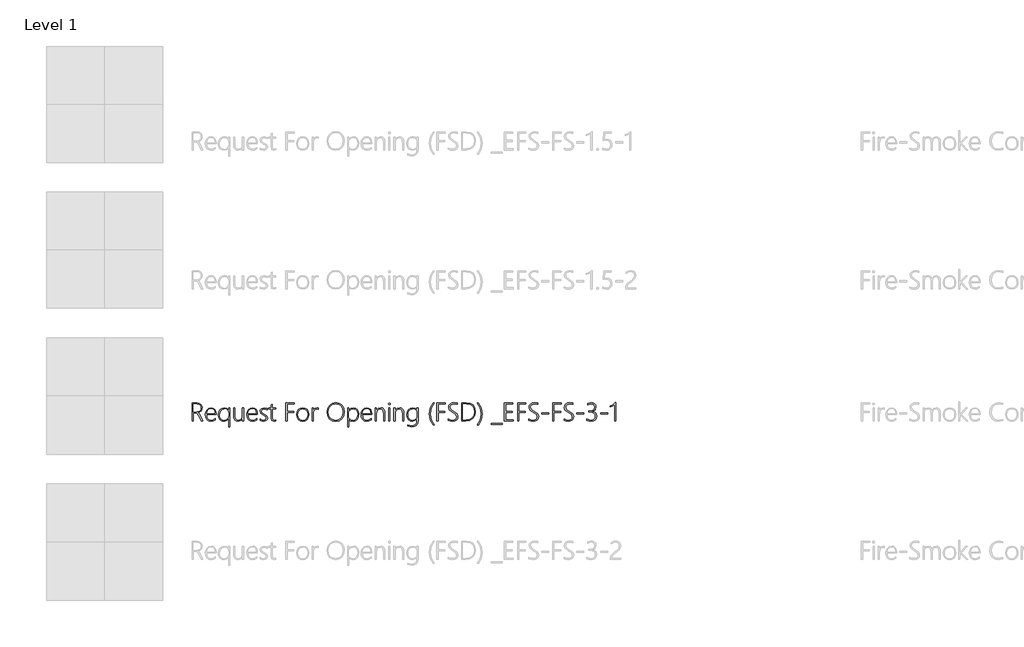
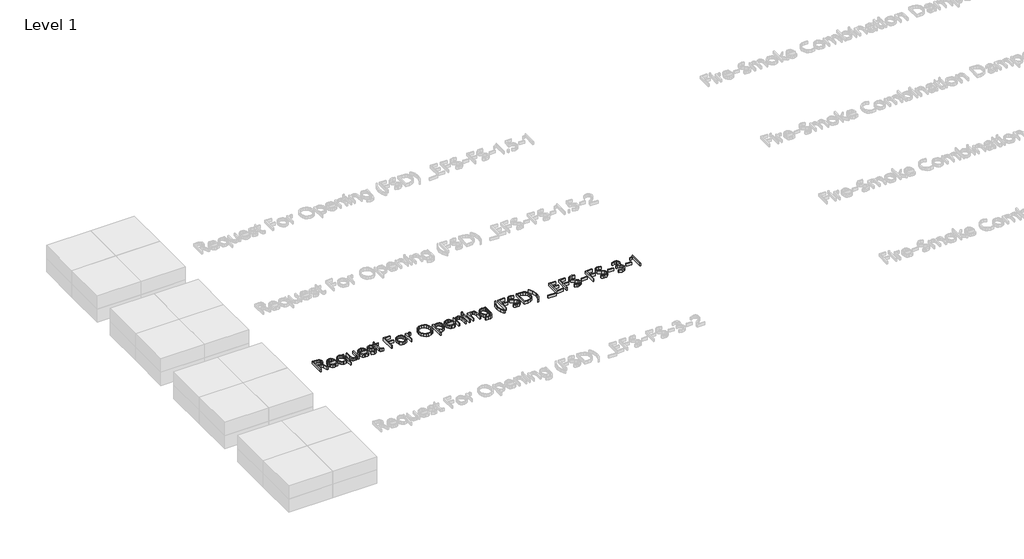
# One storey, part 3 of 13: 1 proxy.
"""IFC4 building model written with IfcOpenShell, lengths in millimetres."""

from ifc_helpers import new_model, si_unit, origin, origin_with_axes, place, context, project, spatial, polyline, outline, extrude, element, save

model = new_model("IFC4")

# Units and contexts
model_context = context("Model", 3, world=origin())
ifc_project = project(units=[si_unit("LENGTHUNIT", "METRE", prefix="MILLI")], contexts=[model_context])

# Site, building, storey
site = spatial("IfcSite", under=ifc_project)
building = spatial("IfcBuilding", under=site)
storey = spatial("IfcBuildingStorey", under=building, Name="Level 1", Elevation=0.0)

# Proxy
placement = place(None, origin())
element("IfcBuildingElementProxy", 1, Name="24\" Arial", ObjectType="24\" Arial", at=placement, inside=storey, context=model_context, shape_type="SweptSolid", body=[
    extrude(outline(polyline([(-15088.6743908, 4724.9179959), (-15102.0044774, 4754.1965789), (-15110.2316402, 4766.3811112), (-15120.5713837, 4769.4904729), (-15132.9790759, 4769.4904729), (-15132.9790759, 4724.9179959), (-15139.8821565, 4724.9179959), (-15139.8821565, 4824.9233999), (-15112.121061, 4824.9233999), (-15100.2973039, 4823.1344011), (-15091.307678, 4817.7674047), (-15085.6282578, 4809.4770133), (-15083.7351177, 4798.9178292), (-15085.2860792, 4788.9834929), (-15089.9389638, 4780.8418747), (-15097.3813475, 4774.8872239), (-15107.3008065, 4771.5137896), (-15095.7262447, 4756.7852341), (-15080.8786706, 4724.9179959), (-15088.6743908, 4724.9179959)]), holes=[polyline([(-15132.9790759, 4818.5856578), (-15132.9790759, 4775.7687056), (-15115.7511292, 4775.7687056), (-15105.4783337, 4777.2675965), (-15097.5710334, 4781.7642691), (-15092.527619, 4788.8719129), (-15090.8464808, 4798.2037174), (-15092.3639684, 4806.7209881), (-15096.916431, 4813.1703102), (-15104.2955861, 4817.2318209), (-15114.293151, 4818.5856578), (-15132.9790759, 4818.5856578)])]), origin_with_axes(), (0.0, 0.0, 1.0), 20.0),
    extrude(outline(polyline([(-15059.7528637, 4760.355793), (-15058.0531289, 4747.233989), (-15052.9539245, 4737.3256881), (-15044.8941316, 4731.099526), (-15034.3126315, 4729.0241386), (-15022.4405231, 4731.2408606), (-15010.8659614, 4737.8910266), (-15010.8659614, 4731.0474553), (-15022.6041738, 4725.1337171), (-15035.6218364, 4723.1624711), (-15048.1039153, 4725.6395463), (-15057.9378296, 4733.070772), (-15064.3202036, 4745.017267), (-15066.4476617, 4761.0401501), (-15064.223501, 4775.4339657), (-15057.551019, 4787.3730221), (-15047.3228555, 4795.4067796), (-15034.4316501, 4798.0846988), (-15022.6748411, 4795.7452388), (-15014.0050777, 4788.726859), (-15008.6603974, 4777.6692844), (-15006.8788373, 4763.2122401), (-15006.8788373, 4760.355793), (-15059.7528637, 4760.355793)]), holes=[polyline([(-15013.5736352, 4766.2174605), (-15015.284528, 4777.1671745), (-15019.5245667, 4785.37946), (-15026.07803, 4790.5121384), (-15034.7291967, 4792.2230312), (-15043.8973506, 4790.5381738), (-15051.347173, 4785.4836013), (-15056.676976, 4777.2973511), (-15059.4850718, 4766.2174605), (-15013.5736352, 4766.2174605)])]), origin_with_axes(), (0.0, 0.0, 1.0), 20.0),
    extrude(outline(polyline([(-14938.2348423, 4692.0688539), (-14938.2348423, 4738.0397998), (-14948.946519, 4726.8818033), (-14964.3891863, 4723.1624711), (-14976.4695772, 4725.6209497), (-14985.9315583, 4732.9963854), (-14992.0461405, 4744.5449119), (-14994.0843345, 4759.5226626), (-14991.7671906, 4775.4451237), (-14984.8157587, 4787.685446), (-14974.2863292, 4795.4848856), (-14961.2351926, 4798.0846988), (-14947.5629274, 4794.7521771), (-14938.5026342, 4784.7546122), (-14938.2348423, 4796.329174), (-14931.8078363, 4796.329174), (-14931.8078363, 4692.0688539), (-14938.2348423, 4692.0688539)]), holes=[polyline([(-14938.2348423, 4767.7349481), (-14939.7858038, 4777.4721598), (-14944.4386884, 4785.3199507), (-14951.8438788, 4790.4972611), (-14961.6517578, 4792.2230312), (-14971.8055347, 4790.0881346), (-14980.0698908, 4783.6834445), (-14985.5596251, 4773.4404037), (-14987.3895366, 4759.7904545), (-14985.7604691, 4746.9624778), (-14980.8732666, 4737.2215468), (-14973.3899702, 4731.0734907), (-14963.9726211, 4729.0241386), (-14952.9448011, 4730.943314), (-14944.8552536, 4736.7008403), (-14939.8899451, 4745.2329883), (-14938.2348423, 4755.4760292), (-14938.2348423, 4767.7349481)])]), origin_with_axes(), (0.0, 0.0, 1.0), 20.0),
    extrude(outline(polyline([(-14861.7951271, 4724.9179959), (-14861.7951271, 4737.8910266), (-14871.5620934, 4726.8446099), (-14885.0930239, 4723.1624711), (-14896.1710549, 4725.1560331), (-14904.0839341, 4731.1367193), (-14908.8316616, 4741.1045296), (-14910.4142375, 4755.059464), (-14910.4142375, 4796.329174), (-14903.9277221, 4796.329174), (-14903.9277221, 4756.6364608), (-14902.7338165, 4744.1283466), (-14899.1520996, 4735.5850406), (-14893.0040435, 4730.6643641), (-14884.1111202, 4729.0241386), (-14875.0917397, 4730.8540501), (-14867.9692185, 4736.3437844), (-14863.3386499, 4744.8908097), (-14861.7951271, 4755.8925944), (-14861.7951271, 4796.329174), (-14855.3978757, 4796.329174), (-14855.3978757, 4724.9179959), (-14861.7951271, 4724.9179959)])), origin_with_axes(), (0.0, 0.0, 1.0), 20.0),
    extrude(outline(polyline([(-14831.2370938, 4760.355793), (-14829.537359, 4747.233989), (-14824.4381545, 4737.3256881), (-14816.3783617, 4731.099526), (-14805.7968616, 4729.0241386), (-14793.9247532, 4731.2408606), (-14782.3501914, 4737.8910266), (-14782.3501914, 4731.0474553), (-14794.0884038, 4725.1337171), (-14807.1060665, 4723.1624711), (-14819.5881453, 4725.6395463), (-14829.4220597, 4733.070772), (-14835.8044337, 4745.017267), (-14837.9318917, 4761.0401501), (-14835.7077311, 4775.4339657), (-14829.0352491, 4787.3730221), (-14818.8070856, 4795.4067796), (-14805.9158802, 4798.0846988), (-14794.1590711, 4795.7452388), (-14785.4893078, 4788.726859), (-14780.1446274, 4777.6692844), (-14778.3630673, 4763.2122401), (-14778.3630673, 4760.355793), (-14831.2370938, 4760.355793)]), holes=[polyline([(-14785.0578653, 4766.2174605), (-14786.7687581, 4777.1671745), (-14791.0087968, 4785.37946), (-14797.5622601, 4790.5121384), (-14806.2134268, 4792.2230312), (-14815.3815806, 4790.5381738), (-14822.831403, 4785.4836013), (-14828.161206, 4777.2973511), (-14830.9693018, 4766.2174605), (-14785.0578653, 4766.2174605)])]), origin_with_axes(), (0.0, 0.0, 1.0), 20.0),
    extrude(outline(polyline([(-14764.1105863, 4728.0422349), (-14764.1105863, 4735.8082005), (-14755.318085, 4730.8391727), (-14746.4065651, 4729.0241386), (-14733.798029, 4732.4608016), (-14729.5951836, 4742.7707904), (-14733.2847611, 4750.8491799), (-14745.2758881, 4757.7671378), (-14759.6771424, 4767.005959), (-14763.8130398, 4778.6251527), (-14762.1504983, 4786.5064177), (-14757.1628738, 4792.7139831), (-14740.7531802, 4798.0846988), (-14724.9832117, 4794.3058573), (-14724.9832117, 4787.0457208), (-14741.4375373, 4792.2230312), (-14752.8038165, 4788.5632084), (-14757.1182418, 4779.0417179), (-14754.410568, 4770.7699231), (-14742.419441, 4763.4800321), (-14727.080915, 4754.1668242), (-14722.9003856, 4742.7707904), (-14724.4959792, 4735.0011054), (-14729.2827597, 4728.7117147), (-14736.8739167, 4724.549782), (-14746.8826396, 4723.1624711), (-14764.1105863, 4728.0422349)])), origin_with_axes(), (0.0, 0.0, 1.0), 20.0),
    extrude(outline(polyline([(-14676.9294397, 4725.8998996), (-14686.3616662, 4723.519527), (-14698.2337745, 4728.2653948), (-14702.191144, 4742.5029985), (-14702.191144, 4790.4675064), (-14715.0154014, 4790.4675064), (-14715.0154014, 4796.329174), (-14702.191144, 4796.329174), (-14702.191144, 4814.8663256), (-14698.977641, 4815.9970026), (-14695.764138, 4817.0384156), (-14695.764138, 4796.329174), (-14676.9294397, 4796.329174), (-14676.9294397, 4790.4675064), (-14695.764138, 4790.4675064), (-14695.764138, 4743.3361289), (-14693.4283973, 4732.6244522), (-14685.5285358, 4729.3216852), (-14676.9294397, 4731.8805857), (-14676.9294397, 4725.8998996)])), origin_with_axes(), (0.0, 0.0, 1.0), 20.0),
    extrude(outline(polyline([(-14615.0099974, 4818.5856578), (-14615.0099974, 4777.7920223), (-14578.0547127, 4777.7920223), (-14578.0547127, 4771.5137896), (-14615.0099974, 4771.5137896), (-14615.0099974, 4724.9179959), (-14621.9130779, 4724.9179959), (-14621.9130779, 4824.9233999), (-14575.1685109, 4824.9233999), (-14575.1685109, 4818.5856578), (-14615.0099974, 4818.5856578)])), origin_with_axes(), (0.0, 0.0, 1.0), 20.0),
    extrude(outline(polyline([(-14527.9776241, 4723.1624711), (-14541.9697518, 4725.736249), (-14552.7037445, 4733.4575826), (-14559.5324384, 4745.2924976), (-14561.8086697, 4760.2070197), (-14559.4282971, 4776.0625329), (-14552.2871793, 4788.0425019), (-14541.2630787, 4795.5741495), (-14527.2337576, 4798.0846988), (-14513.5503345, 4795.5890269), (-14503.087853, 4788.1020112), (-14496.4488451, 4776.2038675), (-14494.2358424, 4760.4748116), (-14496.4934771, 4745.3966389), (-14503.266381, 4733.4873372), (-14513.959461, 4725.7436876), (-14527.9776241, 4723.1624711)]), holes=[polyline([(-14527.5015495, 4792.2230312), (-14538.8380741, 4790.0955732), (-14547.615698, 4783.7131992), (-14553.2393283, 4773.544545), (-14555.1138717, 4760.0582464), (-14553.2839603, 4747.4199556), (-14547.794226, 4737.5339707), (-14539.128182, 4731.1515966), (-14527.7693415, 4729.0241386), (-14516.3621496, 4731.1181226), (-14507.9081076, 4737.4000747), (-14502.6750072, 4747.3939203), (-14500.9306404, 4760.6235849), (-14502.6638492, 4774.1136028), (-14507.8634756, 4784.0553777), (-14516.2394117, 4790.1811179), (-14527.5015495, 4792.2230312)])]), origin_with_axes(), (0.0, 0.0, 1.0), 20.0),
    extrude(outline(polyline([(-14442.9983221, 4789.634376), (-14450.5262505, 4791.9254847), (-14458.2736194, 4789.745956), (-14464.6745901, 4783.20737), (-14468.9704188, 4772.6593439), (-14470.4023617, 4758.4514949), (-14470.4023617, 4724.9179959), (-14476.6805945, 4724.9179959), (-14476.6805945, 4796.329174), (-14470.4023617, 4796.329174), (-14470.4023617, 4780.4996962), (-14462.3686042, 4793.1900576), (-14450.1096853, 4797.7276429), (-14442.9983221, 4796.4779473), (-14442.9983221, 4789.634376)])), origin_with_axes(), (0.0, 0.0, 1.0), 20.0),
    extrude(outline(polyline([(-14346.5337224, 4723.1624711), (-14365.5729839, 4726.6846787), (-14380.320136, 4737.2513014), (-14389.7709591, 4753.4489931), (-14392.9212335, 4773.8644075), (-14389.6854145, 4795.4067796), (-14379.9779574, 4812.1884065), (-14364.6766248, 4822.9893471), (-14344.6591789, 4826.5896607), (-14326.3563452, 4823.1306818), (-14311.9141783, 4812.7537449), (-14302.5303032, 4796.7606165), (-14299.4023448, 4776.4530627), (-14302.6084092, 4754.2821235), (-14312.2266022, 4737.4000747), (-14327.2155109, 4726.721872), (-14346.5337224, 4723.1624711)]), holes=[polyline([(-14345.8196106, 4820.311428), (-14361.712317, 4817.1574343), (-14374.5179778, 4807.6954532), (-14382.9645812, 4793.1231096), (-14385.7801157, 4774.6380286), (-14383.1133545, 4756.0934383), (-14375.1130709, 4741.759132), (-14362.6719047, 4732.5872589), (-14346.6824956, 4729.5299678), (-14330.0570807, 4732.5537849), (-14317.3146486, 4741.6252361), (-14309.2139431, 4756.1045963), (-14306.513708, 4775.3521404), (-14309.1544338, 4794.212874), (-14317.0766114, 4808.4244423), (-14329.5438129, 4817.3396815), (-14345.8196106, 4820.311428)])]), origin_with_axes(), (0.0, 0.0, 1.0), 20.0),
    extrude(outline(polyline([(-14273.843094, 4737.6232346), (-14274.1108859, 4692.0688539), (-14280.5378919, 4692.0688539), (-14280.5378919, 4796.329174), (-14274.1108859, 4796.329174), (-14274.1108859, 4781.6006185), (-14262.848748, 4793.7851508), (-14247.1234115, 4798.0846988), (-14235.0169852, 4795.7378002), (-14225.8934633, 4788.6971043), (-14220.1694111, 4777.632091), (-14218.2613937, 4763.2122401), (-14220.448361, 4746.9922324), (-14227.009263, 4734.2163264), (-14237.1630399, 4725.9259349), (-14250.1286319, 4723.1624711), (-14264.0761276, 4726.777662), (-14273.843094, 4737.6232346)]), holes=[polyline([(-14274.1108859, 4764.1941438), (-14274.1108859, 4755.1784826), (-14272.4185897, 4745.195795), (-14267.3417013, 4736.7305949), (-14259.512507, 4730.9507527), (-14249.5632934, 4729.0241386), (-14239.6438345, 4731.3710372), (-14231.7848855, 4738.4117331), (-14226.6633651, 4749.2684637), (-14224.9561916, 4763.0634668), (-14226.5257498, 4775.0769098), (-14231.2344244, 4784.338047), (-14238.5540701, 4790.2517852), (-14247.9565419, 4792.2230312), (-14259.0364325, 4790.1290472), (-14267.282192, 4783.8470951), (-14272.4037124, 4774.7458893), (-14274.1108859, 4764.1941438)])]), origin_with_axes(), (0.0, 0.0, 1.0), 20.0),
    extrude(outline(polyline([(-14199.0101303, 4760.355793), (-14197.3103954, 4747.233989), (-14192.211191, 4737.3256881), (-14184.1513981, 4731.099526), (-14173.5698981, 4729.0241386), (-14161.6977897, 4731.2408606), (-14150.1232279, 4737.8910266), (-14150.1232279, 4731.0474553), (-14161.8614403, 4725.1337171), (-14174.879103, 4723.1624711), (-14187.3611818, 4725.6395463), (-14197.1950961, 4733.070772), (-14203.5774702, 4745.017267), (-14205.7049282, 4761.0401501), (-14203.4807675, 4775.4339657), (-14196.8082856, 4787.3730221), (-14186.5801221, 4795.4067796), (-14173.6889167, 4798.0846988), (-14161.9321076, 4795.7452388), (-14153.2623443, 4788.726859), (-14147.9176639, 4777.6692844), (-14146.1361038, 4763.2122401), (-14146.1361038, 4760.355793), (-14199.0101303, 4760.355793)]), holes=[polyline([(-14152.8309017, 4766.2174605), (-14154.5417946, 4777.1671745), (-14158.7818333, 4785.37946), (-14165.3352966, 4790.5121384), (-14173.9864633, 4792.2230312), (-14183.1546171, 4790.5381738), (-14190.6044395, 4785.4836013), (-14195.9342425, 4777.2973511), (-14198.7423383, 4766.2174605), (-14152.8309017, 4766.2174605)])]), origin_with_axes(), (0.0, 0.0, 1.0), 20.0),
    extrude(outline(polyline([(-14079.6344442, 4724.9179959), (-14079.6344442, 4766.4852525), (-14084.2761708, 4785.7885865), (-14090.078329, 4790.6144201), (-14098.2013505, 4792.2230312), (-14107.6001029, 4790.3298912), (-14115.146628, 4784.6504709), (-14120.1119364, 4776.1815515), (-14121.7670393, 4765.919914), (-14121.7670393, 4724.9179959), (-14128.1940453, 4724.9179959), (-14128.1940453, 4796.329174), (-14121.7670393, 4796.329174), (-14121.7670393, 4783.3561433), (-14111.4793664, 4794.4025599), (-14097.0706735, 4798.0846988), (-14086.8573873, 4796.1580847), (-14079.3666523, 4790.3782425), (-14074.7695577, 4781.0204027), (-14073.2371928, 4768.3597959), (-14073.2371928, 4724.9179959), (-14079.6344442, 4724.9179959)])), origin_with_axes(), (0.0, 0.0, 1.0), 20.0),
    extrude(outline(polyline([(-14048.8681283, 4814.3307418), (-14052.5577058, 4815.8631067), (-14054.1644573, 4819.7758441), (-14052.5279512, 4823.4951763), (-14048.8681283, 4824.9233999), (-14045.0595321, 4823.524931), (-14043.4230259, 4819.7758441), (-14045.0297775, 4815.9374933), (-14048.8681283, 4814.3307418)])), origin_with_axes(), (0.0, 0.0, 1.0), 20.0),
    extrude(outline(polyline([(-14052.022122, 4724.9179959), (-14052.022122, 4796.329174), (-14045.595116, 4796.329174), (-14045.595116, 4724.9179959), (-14052.022122, 4724.9179959)])), origin_with_axes(), (0.0, 0.0, 1.0), 20.0),
    extrude(outline(polyline([(-13974.8980496, 4724.9179959), (-13974.8980496, 4766.4852525), (-13979.5397762, 4785.7885865), (-13985.3419344, 4790.6144201), (-13993.4649559, 4792.2230312), (-14002.8637084, 4790.3298912), (-14010.4102334, 4784.6504709), (-14015.3755419, 4776.1815515), (-14017.0306447, 4765.919914), (-14017.0306447, 4724.9179959), (-14023.4576507, 4724.9179959), (-14023.4576507, 4796.329174), (-14017.0306447, 4796.329174), (-14017.0306447, 4783.3561433), (-14006.7429719, 4794.4025599), (-13992.3342789, 4798.0846988), (-13982.1209927, 4796.1580847), (-13974.6302577, 4790.3782425), (-13970.0331631, 4781.0204027), (-13968.5007983, 4768.3597959), (-13968.5007983, 4724.9179959), (-13974.8980496, 4724.9179959)])), origin_with_axes(), (0.0, 0.0, 1.0), 20.0),
    extrude(outline(polyline([(-13890.1567849, 4730.2143249), (-13892.3549103, 4712.7706569), (-13898.9492862, 4700.7274593), (-13910.1779501, 4693.7202374), (-13926.2789392, 4691.3844968), (-13947.5535193, 4696.7998445), (-13947.5535193, 4703.4946424), (-13926.1301659, 4697.2461644), (-13913.2036269, 4699.1988138), (-13903.9703847, 4705.056762), (-13898.4304394, 4714.820009), (-13896.583791, 4728.4885548), (-13896.583791, 4737.7422533), (-13907.5111889, 4726.8074166), (-13922.5893617, 4723.1624711), (-13934.5581727, 4725.5540017), (-13944.1019791, 4732.7285935), (-13950.3504571, 4744.1729786), (-13952.4332832, 4759.3738893), (-13950.1830872, 4774.8872239), (-13943.4324993, 4787.2688808), (-13933.0072111, 4795.3807443), (-13919.7329145, 4798.0846988), (-13906.1275974, 4794.8191251), (-13896.8515829, 4785.0224041), (-13896.583791, 4796.329174), (-13890.1567849, 4796.329174), (-13890.1567849, 4730.2143249)]), holes=[polyline([(-13896.583791, 4768.9251344), (-13898.1793845, 4777.7697063), (-13902.966165, 4785.3199507), (-13910.3118461, 4790.4972611), (-13919.5841412, 4792.2230312), (-13930.217712, 4790.0063093), (-13938.5527354, 4783.3561433), (-13943.9420478, 4773.0684704), (-13945.7384852, 4759.9392278), (-13944.0908211, 4746.9066878), (-13939.1478286, 4737.1471601), (-13931.5046009, 4731.054894), (-13921.7562312, 4729.0241386), (-13911.4127684, 4730.8912434), (-13903.4124849, 4736.4925577), (-13898.2909644, 4744.7941071), (-13896.583791, 4754.7619174), (-13896.583791, 4768.9251344)])]), origin_with_axes(), (0.0, 0.0, 1.0), 20.0),
    extrude(outline(polyline([(-13807.1412904, 4702.1854375), (-13822.9856455, 4729.7159344), (-13828.2670972, 4762.9146936), (-13822.9186975, 4797.2515684), (-13806.8734985, 4824.9233999), (-13800.0299272, 4824.9233999), (-13816.4098662, 4796.9019511), (-13821.8698459, 4763.0634668), (-13816.4842529, 4730.5118715), (-13800.3274738, 4702.1854375), (-13807.1412904, 4702.1854375)])), origin_with_axes(), (0.0, 0.0, 1.0), 20.0),
    extrude(outline(polyline([(-13779.023139, 4818.5856578), (-13779.023139, 4777.7920223), (-13742.0678543, 4777.7920223), (-13742.0678543, 4771.5137896), (-13779.023139, 4771.5137896), (-13779.023139, 4724.9179959), (-13785.9262196, 4724.9179959), (-13785.9262196, 4824.9233999), (-13739.1816526, 4824.9233999), (-13739.1816526, 4818.5856578), (-13779.023139, 4818.5856578)])), origin_with_axes(), (0.0, 0.0, 1.0), 20.0),
    extrude(outline(polyline([(-13722.4000257, 4728.4885548), (-13722.4000257, 4736.3437844), (-13711.5916463, 4731.2334219), (-13700.649371, 4729.5299678), (-13682.8560858, 4734.3650996), (-13678.3036232, 4740.1709772), (-13676.7861357, 4747.9183462), (-13680.8774011, 4760.1623877), (-13698.566545, 4772.6147119), (-13717.8029311, 4787.4474087), (-13721.8346872, 4801.2089378), (-13719.7778965, 4811.0019395), (-13713.6075244, 4819.1956283), (-13704.007928, 4824.7411526), (-13691.6634645, 4826.5896607), (-13673.8106699, 4823.5844403), (-13673.8106699, 4816.3540585), (-13692.5561042, 4820.311428), (-13708.6980059, 4815.1489949), (-13713.1723625, 4809.2910467), (-13714.6638147, 4802.0420682), (-13710.5874267, 4789.8426586), (-13692.9726694, 4777.4944758), (-13674.3164991, 4763.3758907), (-13669.6747725, 4749.1977964), (-13671.6720539, 4738.746473), (-13677.6638981, 4730.4226075), (-13687.3006878, 4724.9775052), (-13700.2328058, 4723.1624711), (-13712.1197915, 4724.7692226), (-13722.4000257, 4728.4885548)])), origin_with_axes(), (0.0, 0.0, 1.0), 20.0),
    extrude(outline(polyline([(-13648.8167576, 4724.9179959), (-13648.8167576, 4824.9233999), (-13623.7633359, 4824.9233999), (-13601.863908, 4821.8214768), (-13585.9154115, 4812.5157077), (-13576.1856385, 4797.259007), (-13572.9423809, 4776.3042895), (-13576.4199565, 4755.5987671), (-13586.8526833, 4739.1853542), (-13603.4074308, 4728.4848354), (-13625.2510688, 4724.9179959), (-13648.8167576, 4724.9179959)]), holes=[polyline([(-13641.913677, 4818.5856578), (-13641.913677, 4731.1962286), (-13626.2032179, 4731.1962286), (-13606.5502665, 4734.0824304), (-13592.044871, 4742.7410357), (-13583.0961577, 4756.8373048), (-13580.1132533, 4776.0364975), (-13582.9064718, 4794.6517552), (-13591.2861272, 4807.9483678), (-13605.2522196, 4815.9263353), (-13624.804749, 4818.5856578), (-13641.913677, 4818.5856578)])]), origin_with_axes(), (0.0, 0.0, 1.0), 20.0),
    extrude(outline(polyline([(-13555.8036981, 4702.1854375), (-13562.6472693, 4702.1854375), (-13546.4681743, 4730.5118715), (-13541.0751426, 4763.0634668), (-13546.5351223, 4796.9019511), (-13562.9150613, 4824.9233999), (-13556.07149, 4824.9233999), (-13540.0262909, 4797.1771817), (-13534.6778912, 4762.9146936), (-13539.959343, 4729.6415478), (-13555.8036981, 4702.1854375)])), origin_with_axes(), (0.0, 0.0, 1.0), 20.0),
    extrude(outline(polyline([(-13484.5412933, 4706.2320709), (-13484.5412933, 4712.5103037), (-13425.2700155, 4712.5103037), (-13425.2700155, 4706.2320709), (-13484.5412933, 4706.2320709)])), origin_with_axes(), (0.0, 0.0, 1.0), 20.0),
    extrude(outline(polyline([(-13412.6837953, 4724.9179959), (-13412.6837953, 4824.9233999), (-13365.9392283, 4824.9233999), (-13365.9392283, 4818.5856578), (-13405.7807148, 4818.5856578), (-13405.7807148, 4778.4763795), (-13368.8254301, 4778.4763795), (-13368.8254301, 4772.1981467), (-13405.7807148, 4772.1981467), (-13405.7807148, 4731.1962286), (-13363.6481197, 4731.1962286), (-13363.6481197, 4724.9179959), (-13412.6837953, 4724.9179959)])), origin_with_axes(), (0.0, 0.0, 1.0), 20.0),
    extrude(outline(polyline([(-13333.4173876, 4818.5856578), (-13333.4173876, 4777.7920223), (-13296.4621029, 4777.7920223), (-13296.4621029, 4771.5137896), (-13333.4173876, 4771.5137896), (-13333.4173876, 4724.9179959), (-13340.3204682, 4724.9179959), (-13340.3204682, 4824.9233999), (-13293.5759012, 4824.9233999), (-13293.5759012, 4818.5856578), (-13333.4173876, 4818.5856578)])), origin_with_axes(), (0.0, 0.0, 1.0), 20.0),
    extrude(outline(polyline([(-13276.7942743, 4728.4885548), (-13276.7942743, 4736.3437844), (-13265.985895, 4731.2334219), (-13255.0436196, 4729.5299678), (-13237.2503344, 4734.3650996), (-13232.6978718, 4740.1709772), (-13231.1803843, 4747.9183462), (-13235.2716497, 4760.1623877), (-13252.9607936, 4772.6147119), (-13272.1971797, 4787.4474087), (-13276.2289358, 4801.2089378), (-13274.1721451, 4811.0019395), (-13268.001773, 4819.1956283), (-13258.4021766, 4824.7411526), (-13246.0577131, 4826.5896607), (-13228.2049185, 4823.5844403), (-13228.2049185, 4816.3540585), (-13246.9503528, 4820.311428), (-13263.0922545, 4815.1489949), (-13267.5666111, 4809.2910467), (-13269.0580633, 4802.0420682), (-13264.9816753, 4789.8426586), (-13247.366918, 4777.4944758), (-13228.7107477, 4763.3758907), (-13224.0690211, 4749.1977964), (-13226.0663025, 4738.746473), (-13232.0581467, 4730.4226075), (-13241.6949364, 4724.9775052), (-13254.6270544, 4723.1624711), (-13266.5140401, 4724.7692226), (-13276.7942743, 4728.4885548)])), origin_with_axes(), (0.0, 0.0, 1.0), 20.0),
    extrude(outline(polyline([(-13205.91868, 4763.6288053), (-13205.91868, 4769.9070381), (-13167.7732091, 4769.9070381), (-13167.7732091, 4763.6288053), (-13205.91868, 4763.6288053)])), origin_with_axes(), (0.0, 0.0, 1.0), 20.0),
    extrude(outline(polyline([(-13139.1789832, 4818.5856578), (-13139.1789832, 4777.7920223), (-13102.2236985, 4777.7920223), (-13102.2236985, 4771.5137896), (-13139.1789832, 4771.5137896), (-13139.1789832, 4724.9179959), (-13146.0820637, 4724.9179959), (-13146.0820637, 4824.9233999), (-13099.3374967, 4824.9233999), (-13099.3374967, 4818.5856578), (-13139.1789832, 4818.5856578)])), origin_with_axes(), (0.0, 0.0, 1.0), 20.0),
    extrude(outline(polyline([(-13082.5558699, 4728.4885548), (-13082.5558699, 4736.3437844), (-13071.7474905, 4731.2334219), (-13060.8052152, 4729.5299678), (-13043.01193, 4734.3650996), (-13038.4594674, 4740.1709772), (-13036.9419798, 4747.9183462), (-13041.0332453, 4760.1623877), (-13058.7223892, 4772.6147119), (-13077.9587753, 4787.4474087), (-13081.9905314, 4801.2089378), (-13079.9337407, 4811.0019395), (-13073.7633685, 4819.1956283), (-13064.1637722, 4824.7411526), (-13051.8193086, 4826.5896607), (-13033.9665141, 4823.5844403), (-13033.9665141, 4816.3540585), (-13052.7119483, 4820.311428), (-13068.8538501, 4815.1489949), (-13073.3282067, 4809.2910467), (-13074.8196589, 4802.0420682), (-13070.7432708, 4789.8426586), (-13053.1285135, 4777.4944758), (-13034.4723433, 4763.3758907), (-13029.8306167, 4749.1977964), (-13031.8278981, 4738.746473), (-13037.8197422, 4730.4226075), (-13047.4565319, 4724.9775052), (-13060.38865, 4723.1624711), (-13072.2756357, 4724.7692226), (-13082.5558699, 4728.4885548)])), origin_with_axes(), (0.0, 0.0, 1.0), 20.0),
    extrude(outline(polyline([(-13011.6802756, 4763.6288053), (-13011.6802756, 4769.9070381), (-12973.5348046, 4769.9070381), (-12973.5348046, 4763.6288053), (-13011.6802756, 4763.6288053)])), origin_with_axes(), (0.0, 0.0, 1.0), 20.0),
    extrude(outline(polyline([(-12956.6341591, 4728.4885548), (-12956.6341591, 4735.8082005), (-12935.0917871, 4729.0241386), (-12924.342917, 4730.5676615), (-12916.1975795, 4735.1982301), (-12911.0649011, 4742.3207512), (-12909.3540083, 4751.3401318), (-12911.3178157, 4761.0922208), (-12917.2092379, 4768.1515133), (-12926.7232896, 4772.436184), (-12939.5549857, 4773.8644075), (-12947.2316873, 4773.8644075), (-12947.2316873, 4779.7260751), (-12940.3881161, 4779.7260751), (-12928.5941137, 4781.14686), (-12919.9912984, 4785.4092147), (-12914.735882, 4792.2676632), (-12912.9840765, 4801.4767297), (-12918.0721229, 4815.6101921), (-12924.3354784, 4819.4485429), (-12932.9494517, 4820.7279932), (-12952.6767897, 4814.1819685), (-12952.6767897, 4821.0255397), (-12931.967548, 4826.5896607), (-12921.3302579, 4824.9866285), (-12913.1626045, 4820.177532), (-12907.962978, 4812.720271), (-12906.2297692, 4803.1727452), (-12911.0946558, 4786.577085), (-12925.6893153, 4777.3754571), (-12916.2645275, 4774.6157126), (-12908.9374431, 4769.3119449), (-12904.2287685, 4761.7021913), (-12902.6592103, 4752.3220355), (-12904.928003, 4740.4759624), (-12911.7343809, 4731.1813513), (-12922.148511, 4725.1671911), (-12935.2405603, 4723.1624711), (-12956.6341591, 4728.4885548)])), origin_with_axes(), (0.0, 0.0, 1.0), 20.0),
    extrude(outline(polyline([(-12880.2837079, 4763.6288053), (-12880.2837079, 4769.9070381), (-12842.1382369, 4769.9070381), (-12842.1382369, 4763.6288053), (-12880.2837079, 4763.6288053)])), origin_with_axes(), (0.0, 0.0, 1.0), 20.0),
    extrude(outline(polyline([(-12796.5838562, 4827.1549992), (-12796.5838562, 4724.9179959), (-12803.0108622, 4724.9179959), (-12803.0108622, 4817.0384156), (-12813.9903309, 4809.0790447), (-12827.4691907, 4803.1727452), (-12827.4691907, 4809.0344128), (-12819.3312919, 4812.3371797), (-12812.1157874, 4816.4135678), (-12805.4209895, 4821.3230863), (-12798.8154555, 4827.1549992), (-12796.5838562, 4827.1549992)])), origin_with_axes(), (0.0, 0.0, 1.0), 20.0),
])

save(model, "model.ifc")
